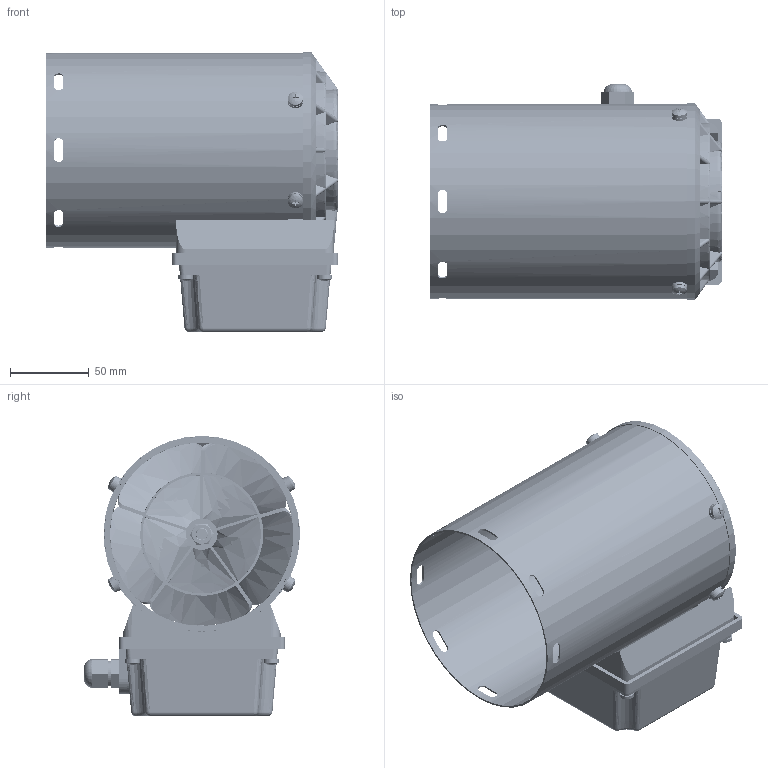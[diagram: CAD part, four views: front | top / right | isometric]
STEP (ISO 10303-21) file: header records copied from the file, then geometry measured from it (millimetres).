
FILE_DESCRIPTION (( 'STEP AP203' ), '1' );
FILE_NAME ('MFLA-63.STEP', '2020-04-22T07:06:32', ( '' ), ( '' ), 'SwSTEP 2.0', 'SolidWorks 2012', '' );
FILE_SCHEMA (( 'CONFIG_CONTROL_DESIGN' ));
Length unit declared in the file: millimetre
Products named in the file (52): 02.3.16.0006-ｦﾛｦ+ｦ_-W2_ｦﾛｦ+ｦ_; 02.3.17.0001-¦¿ð+Áµ+ª-D22_¦¿ð+Áµ+ª; MFLA-63; 02.3.16.0003-ｦﾛｦ+ｦ_-W1_ｦﾛｦ+ｦ_; 02.3.16.0005-ｦﾛｦ+ｦ_-V2_ｦﾛｦ+ｦ_; 02.3.16.0002-ｦﾛｦ+ｦ_-V1_ｦﾛｦ+ｦ_; 02.3.16.0004-ｦﾛｦ+ｦ_-U2_ｦﾛｦ+ｦ_; 02.3.16.0001-ｦﾛｦ+ｦ_-U1_ｦﾛｦ+ｦ_; 02.3.15.0001-ｦｯ-ｦｦﾎ-M16X1.5_ｦｯ-ｦｦﾎ; 02.3.13.0002-Oð+¢Ë¤¯Â-ÎË-_5_Oð+¢Ë¤¯Â-ÎË; 02.3.GB-T7113.3-2011.0001-+ã+»¦_-_3_+ã+»¦_; 03.1.GB-T6170-2015.0003-1ð--¨¢Ã-¦-©-M4+ã-¡H62_1ð--¨¢Ã-¦-©; 02.3.12.0002--｡-ｼ｢ﾋ羮-E 071.03-01; 02.3.13.0001-Oð+¢Ë¤¯Â-ÎË-_4_Oð+¢Ë¤¯Â-ÎË; 02.3.14.0001-++-ｧｦ_-_3; 03.1.GB-T95-2002.0002-ã¢Áµ+ª C+Â-M4+ã-¡H62_ã¢Áµ+ª C+Â; 03.1.GB-93-1987.0016-¦ÛÎ+ð-Á»++Áµ+ª-M4+ã-¡H62_¦ÛÎ+ð-Á»++Áµ+ª-; 03.1.GB-T818-2016.0004--«ÎÍ¦¦+¦-À-¦Âñ-M5X8_-«ÎÍ¦¦+¦-À-¦Âñ; 02.3.11.0001-ﾁ+ｦ羣; 03.1.GB-T6170-2015.0007-1ð--¨¢Ã-¦-©-M8Âã¦Îð+_1ð--¨¢Ã-¦-©; 02.1.12.0001-〩仁佞蹉峔五╪蟋-BG071-02; 02.1.08.0002-〩仁佞怔-BG71; 02.1.11.0001-〩仁耳-E 071-03; 03.1.GB-T818-2016.0003--«ÎÍ¦¦+¦-À-¦Âñ-M5X12_-«ÎÍ¦¦+¦-À-¦Âñ; 02.1.10.0001-ﾁ+ｦ羣ﾍｺ+_-G63-05; 03.1.GB-T94.2-1987.0001-¦¦ð+íó¥Ô¦¦-°¢¶Áµ+ª-M5_¦¦ð+íó¥Ô¦¦-°¢¶Áµ+ª; 02.1.07.0003-Àþ-¦-BG63; 03.1.GB-T6173-2000.0001--¨¢Ã¦í-¦-© ¤©Ð+-M8X1_-¨¢Ã¦í-¦-© ¤©Ð+; 03.1.GB-T94.2-1987.0002-¦¦ð+íó¥Ô¦¦-°¢¶Áµ+ª-M8_¦¦ð+íó¥Ô¦¦-°¢¶Áµ+ª; 03.1.GB-T818-2016.0001--«ÎÍ¦¦+¦-À-¦Âñ-M5X16_-«ÎÍ¦¦+¦-À-¦Âñ; 03.1.GB-T95-2002.0001-罎ﾁｵ+ｪ C+ﾂ-M5_罎ﾁｵ+ｪ C+ﾂ; 02.1.06.0003-瞬岈-BG63; 03.1.GB-T818-2016.0002--«ÎÍ¦¦+¦-À-¦Âñ-M5X20_-«ÎÍ¦¦+¦-À-¦Âñ; 03.1.GB-T3452-1-2005.0001-Oð+¤­¢¦+_ÀÔ+ª-69X1.8í+0.08_Oð+¤­¢¦+_ÀÔ+ª; 02.3.01.0002-Bð--+¦³¦Ã+_Ë-ÀÔ-_20X_8X5_Bð--+¦³¦Ã+_Ë-ÀÔ; 03.1.GB-93-1987.0005-¦ÛÎ+ð-Á»++Áµ+ª-M5_¦ÛÎ+ð-Á»++Áµ+ª; 02.3.08.0002-ﾂ-ｩﾃ-BG71; 02.1.05.0002-峎恂-BG71; 02.3.09.0002-俓-BG71; 02.3.10.0002-芠--峎恂-BG71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
Assembly tree (155 placements, depth 4):
  MFLA-63
    02.1.09.0003-ÀþiÍ+ª-BG63
    03.1.GB-T276-2013-0001-+祕謄=俓佞608_GB-T276-2013-0001-+祕謄=俓佞608  x2
    02.1.03.0002-Ëð+ãÎÚÂ¿ÎË¦·ð¥-BG71
      02.3.06.0002-BG71-Â¿ÎË¦·ð-
      02.1.04.0002-ﾁ+ｷﾂｿﾎﾋ､ｯ+ｪ-BG71  x12
        02.3.GB-T6109.2-2008.0002-它忘蝃有-﹍忖珞0.14
        02.3.JB-T7093-2015.0013--氦-+嘉趣喀_猧0.3
      02.3.04.0003-6641･ｦｧﾑ､-+ｼｩｦｦ､ｦ--､0.15mmｦｱ  x12
      02.3.03.0002-0.35mm2JYJ它亢戌妦伽仁  x6
      02.3.JB-T7093-2015.0002--氦-+嘉趣喀_猧1.5-2
      02.3.05.0002-PST･ｦｧﾑ､-+ｼｦｾﾈｷｦｰ_0.4
      02.3.07.0002-戌蟫-BG71  x12
    02.1.05.0002-峎恂-BG71
      02.3.10.0002-芠--峎恂-BG71
      02.3.09.0002-俓-BG71
    02.3.01.0002-Bð--+¦³¦Ã+_Ë-ÀÔ-_20X_8X5_Bð--+¦³¦Ã+_Ë-ÀÔ
    03.1.GB-T3452-1-2005.0001-Oð+¤­¢¦+_ÀÔ+ª-69X1.8í+0.08_Oð+¤­¢¦+_ÀÔ+ª
    02.3.08.0002-ﾂ-ｩﾃ-BG71
    03.1.GB-93-1987.0005-¦ÛÎ+ð-Á»++Áµ+ª-M5_¦ÛÎ+ð-Á»++Áµ+ª  x5
    03.1.GB-T95-2002.0001-罎ﾁｵ+ｪ C+ﾂ-M5_罎ﾁｵ+ｪ C+ﾂ  x8
    03.1.GB-T818-2016.0002--«ÎÍ¦¦+¦-À-¦Âñ-M5X20_-«ÎÍ¦¦+¦-À-¦Âñ  x3
    02.1.06.0003-瞬岈-BG63
    03.1.GB-T94.2-1987.0002-¦¦ð+íó¥Ô¦¦-°¢¶Áµ+ª-M8_¦¦ð+íó¥Ô¦¦-°¢¶Áµ+ª
    03.1.GB-T6173-2000.0001--¨¢Ã¦í-¦-© ¤©Ð+-M8X1_-¨¢Ã¦í-¦-© ¤©Ð+
    02.1.07.0003-Àþ-¦-BG63
    03.1.GB-T818-2016.0001--«ÎÍ¦¦+¦-À-¦Âñ-M5X16_-«ÎÍ¦¦+¦-À-¦Âñ  x4
    03.1.GB-T94.2-1987.0001-¦¦ð+íó¥Ô¦¦-°¢¶Áµ+ª-M5_¦¦ð+íó¥Ô¦¦-°¢¶Áµ+ª  x5
    02.1.11.0001-〩仁耳-E 071-03
    02.1.10.0001-ﾁ+ｦ羣ﾍｺ+_-G63-05
    03.1.GB-T818-2016.0003--«ÎÍ¦¦+¦-À-¦Âñ-M5X12_-«ÎÍ¦¦+¦-À-¦Âñ  x6
    02.3.11.0001-ﾁ+ｦ羣
    03.1.GB-T6170-2015.0007-1ð--¨¢Ã-¦-©-M8Âã¦Îð+_1ð--¨¢Ã-¦-©
    02.1.12.0001-〩仁佞蹉峔五╪蟋-BG071-02
    02.1.08.0002-〩仁佞怔-BG71
    03.1.GB-T818-2016.0004--«ÎÍ¦¦+¦-À-¦Âñ-M5X8_-«ÎÍ¦¦+¦-À-¦Âñ
    03.1.GB-93-1987.0016-¦ÛÎ+ð-Á»++Áµ+ª-M4+ã-¡H62_¦ÛÎ+ð-Á»++Áµ+ª-  x12
    03.1.GB-T95-2002.0002-ã¢Áµ+ª C+Â-M4+ã-¡H62_ã¢Áµ+ª C+Â  x12
    03.1.GB-T6170-2015.0003-1ð--¨¢Ã-¦-©-M4+ã-¡H62_1ð--¨¢Ã-¦-©  x12
    02.3.12.0002--｡-ｼ｢ﾋ羮-E 071.03-01  x3
    02.3.14.0001-++-ｧｦ_-_3
    02.3.13.0001-Oð+¢Ë¤¯Â-ÎË-_4_Oð+¢Ë¤¯Â-ÎË
    02.3.15.0001-ｦｯ-ｦｦﾎ-M16X1.5_ｦｯ-ｦｦﾎ
    02.3.13.0002-Oð+¢Ë¤¯Â-ÎË-_5_Oð+¢Ë¤¯Â-ÎË
    02.3.GB-T7113.3-2011.0001-+ã+»¦_-_3_+ã+»¦_
    02.3.16.0001-ｦﾛｦ+ｦ_-U1_ｦﾛｦ+ｦ_
    02.3.16.0002-ｦﾛｦ+ｦ_-V1_ｦﾛｦ+ｦ_
    02.3.16.0003-ｦﾛｦ+ｦ_-W1_ｦﾛｦ+ｦ_
    02.3.16.0004-ｦﾛｦ+ｦ_-U2_ｦﾛｦ+ｦ_
    02.3.16.0005-ｦﾛｦ+ｦ_-V2_ｦﾛｦ+ｦ_
    02.3.16.0006-ｦﾛｦ+ｦ_-W2_ｦﾛｦ+ｦ_
    02.3.17.0001-¦¿ð+Áµ+ª-D22_¦¿ð+Áµ+ª
Bounding box: 185 x 136.7 x 177.5 mm (x, y, z)
Volume: 552314.7 mm3; surface area: 491091.2 mm2
Topology: 1167 solids, 1171 shells, 19616 faces, 41430 edges, 22143 vertices
Faces by surface type: torus 12399, cylinder 5244, plane 1528, cone 263, bspline 104, sphere 78
Entity records: 117322 total; most frequent: CARTESIAN_POINT 33680, DIRECTION 17105, ORIENTED_EDGE 15292, EDGE_CURVE 7646, AXIS2_PLACEMENT_3D 7332, VERTEX_POINT 4562, CIRCLE 4100, EDGE_LOOP 3376
